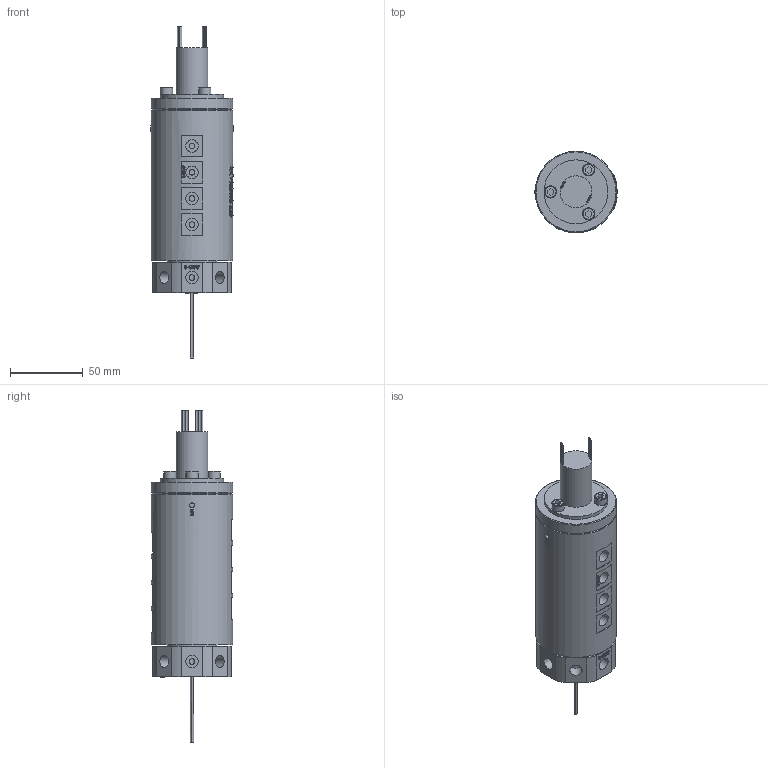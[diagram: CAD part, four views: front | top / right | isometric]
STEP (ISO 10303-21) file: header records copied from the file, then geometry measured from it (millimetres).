
FILE_DESCRIPTION(/* description */ (''),/* implementation_level */ '2;1');
FILE_NAME(/* name */ 'HQ0801-24M.stp',/* time_stamp */ '2025-02-14T11:59:06+08:00',/* author */ (''),/* organization */ (''),/* preprocessor_version */ 'ST-DEVELOPER v16.7',/* originating_system */ 'SIEMENS PLM Software NX 12.0',/* authorisation */ '');
FILE_SCHEMA (('AUTOMOTIVE_DESIGN { 1 0 10303 214 3 1 1 1 }'));
Length unit declared in the file: millimetre
Products named in the file (1): HX0540E8A2D8ngjl
Bounding box: 56.99 x 56 x 228.4 mm (x, y, z)
Volume: 329511.8 mm3; surface area: 46737.4 mm2
Topology: 1 solids, 5 shells, 1170 faces, 3074 edges, 2072 vertices
Faces by surface type: extrusion 503, plane 495, cylinder 132, bspline 30, cone 7, torus 3
Full cylindrical faces by diameter (mm): 0.8 x22, 3.4 x6, 4 x24, 4.1 x8, 4.2 x8, 5 x3, 5.5 x3, 8 x2, 8.5 x19, 22 x1, 34 x1, 44 x1, 56 x2
Entity records: 41995 total; most frequent: CARTESIAN_POINT 17433, ORIENTED_EDGE 5756, DIRECTION 3139, EDGE_CURVE 2878, B_SPLINE_CURVE_WITH_KNOTS 2414, VERTEX_POINT 1999, EDGE_LOOP 1459, ADVANCED_FACE 1167
